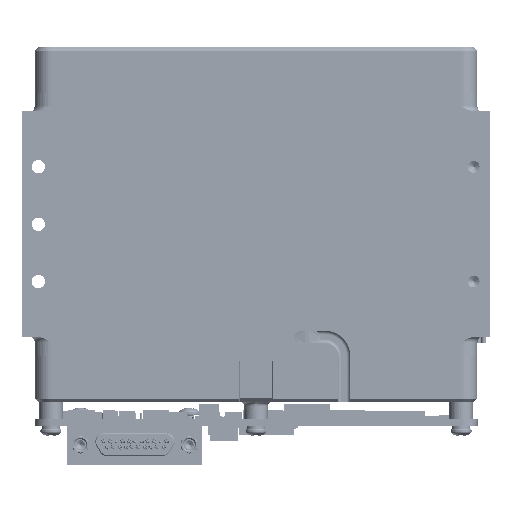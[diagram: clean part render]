
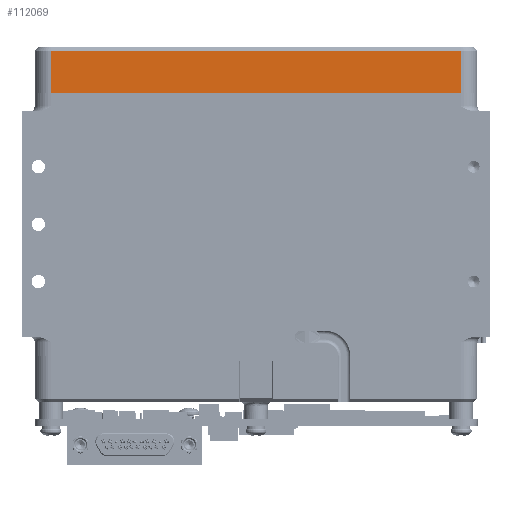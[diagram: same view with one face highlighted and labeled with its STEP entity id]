
A CAD part, front view. The second image highlights one B-rep face of the part: STEP entity #112069.
In plain terms, the highlighted planar face has unit normal (0, -1, 0).
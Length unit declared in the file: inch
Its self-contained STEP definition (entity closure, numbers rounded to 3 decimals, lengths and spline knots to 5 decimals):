
#1764 = DIRECTION ( 'NONE',  ( -1., 0., 0. ) ) ;
#4654 = LINE ( 'NONE', #7090, #15901 ) ;
#7090 = CARTESIAN_POINT ( 'NONE',  ( 2.4525, -0.90019, -3.4919 ) ) ;
#10105 = ORIENTED_EDGE ( 'NONE', *, *, #39581, .F. ) ;
#11914 = EDGE_LOOP ( 'NONE', ( #21624, #20696, #10105, #79579 ) ) ;
#12181 = LINE ( 'NONE', #96220, #82323 ) ;
#13796 = EDGE_CURVE ( 'NONE', #79772, #83192, #57279, .T. ) ;
#14916 = CARTESIAN_POINT ( 'NONE',  ( 2.4275, -0.90019, -0.23 ) ) ;
#15901 = VECTOR ( 'NONE', #24789, 39.37008 ) ;
#17146 = VERTEX_POINT ( 'NONE', #95381 ) ;
#19773 = VERTEX_POINT ( 'NONE', #52966 ) ;
#20205 = DIRECTION ( 'NONE',  ( 0., 0., -1. ) ) ;
#20696 = ORIENTED_EDGE ( 'NONE', *, *, #78207, .F. ) ;
#21624 = ORIENTED_EDGE ( 'NONE', *, *, #24417, .T. ) ;
#24417 = EDGE_CURVE ( 'NONE', #79772, #19773, #85261, .T. ) ;
#24789 = DIRECTION ( 'NONE',  ( -1., 0., 0. ) ) ;
#39581 = EDGE_CURVE ( 'NONE', #83192, #17146, #4654, .T. ) ;
#49834 = CARTESIAN_POINT ( 'NONE',  ( 2.4525, -0.90019, -0.23 ) ) ;
#51882 = PLANE ( 'NONE',  #104389 ) ;
#52966 = CARTESIAN_POINT ( 'NONE',  ( 2.0925, -0.90019, -0.23 ) ) ;
#53823 = VECTOR ( 'NONE', #20205, 39.37008 ) ;
#57279 = LINE ( 'NONE', #66493, #53823 ) ;
#66493 = CARTESIAN_POINT ( 'NONE',  ( 2.4275, -0.90019, -1.86122 ) ) ;
#76980 = DIRECTION ( 'NONE',  ( -1., 0., 0. ) ) ;
#78207 = EDGE_CURVE ( 'NONE', #17146, #19773, #12181, .T. ) ;
#79579 = ORIENTED_EDGE ( 'NONE', *, *, #13796, .F. ) ;
#79772 = VERTEX_POINT ( 'NONE', #14916 ) ;
#82323 = VECTOR ( 'NONE', #105409, 39.37008 ) ;
#83192 = VERTEX_POINT ( 'NONE', #103136 ) ;
#85261 = LINE ( 'NONE', #49834, #102561 ) ;
#86724 = FACE_OUTER_BOUND ( 'NONE', #11914, .T. ) ;
#95381 = CARTESIAN_POINT ( 'NONE',  ( 2.0925, -0.90019, -3.4919 ) ) ;
#96220 = CARTESIAN_POINT ( 'NONE',  ( 2.0925, -0.90019, -3.4919 ) ) ;
#97026 = CARTESIAN_POINT ( 'NONE',  ( 2.4525, -0.90019, -3.4919 ) ) ;
#98204 = DIRECTION ( 'NONE',  ( 0., -1., 0. ) ) ;
#102561 = VECTOR ( 'NONE', #1764, 39.37008 ) ;
#103136 = CARTESIAN_POINT ( 'NONE',  ( 2.4275, -0.90019, -3.4919 ) ) ;
#104389 = AXIS2_PLACEMENT_3D ( 'NONE', #97026, #98204, #76980 ) ;
#105409 = DIRECTION ( 'NONE',  ( 0., 0., 1. ) ) ;
#112069 = ADVANCED_FACE ( 'NONE', ( #86724 ), #51882, .T. ) ;
